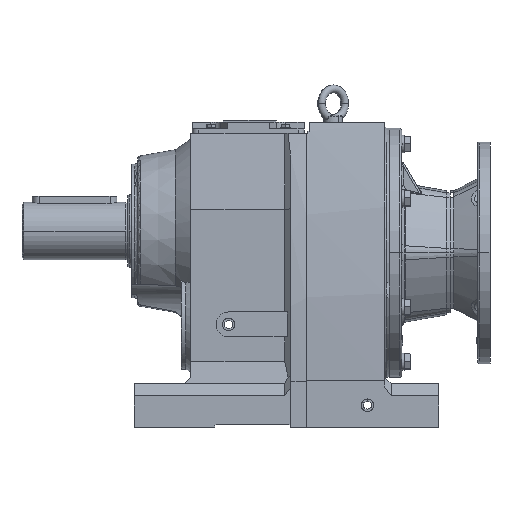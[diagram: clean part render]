
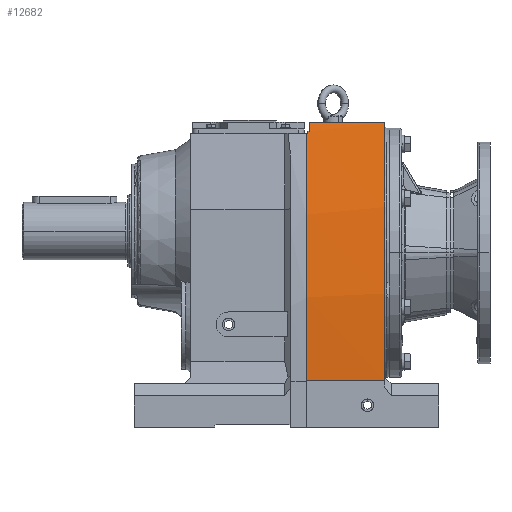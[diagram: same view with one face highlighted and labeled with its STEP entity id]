
A CAD part, front view. The second image highlights one B-rep face of the part: STEP entity #12682.
In plain terms, the highlighted cylindrical face has radius 1250 mm (diameter 2500 mm), a partial arc.
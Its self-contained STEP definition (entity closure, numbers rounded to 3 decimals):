
#503 = VERTEX_POINT ( 'NONE', #3458 ) ;
#505 = VERTEX_POINT ( 'NONE', #3456 ) ;
#592 = VERTEX_POINT ( 'NONE', #3369 ) ;
#593 = VERTEX_POINT ( 'NONE', #3368 ) ;
#3368 = CARTESIAN_POINT ( 'NONE',  ( 288., -225., -240.2 ) ) ;
#3369 = CARTESIAN_POINT ( 'NONE',  ( 414., -225., -240.2 ) ) ;
#3456 = CARTESIAN_POINT ( 'NONE',  ( 290., -181.958, 157. ) ) ;
#3458 = CARTESIAN_POINT ( 'NONE',  ( 288., -181.958, 157. ) ) ;
#6285 = LINE ( 'NONE', #27953, #25272 ) ;
#6546 = CYLINDRICAL_SURFACE ( 'NONE', #34992, 1250. ) ;
#6547 = FACE_OUTER_BOUND ( 'NONE', #32163, .T. ) ;
#7486 = VECTOR ( 'NONE', #29072, 1000. ) ;
#7488 = AXIS2_PLACEMENT_3D ( 'NONE', #29070, #29069, #29065 ) ;
#7491 = AXIS2_PLACEMENT_3D ( 'NONE', #23686, #23684, #23682 ) ;
#7495 = AXIS2_PLACEMENT_3D ( 'NONE', #23692, #23690, #23688 ) ;
#7496 = VECTOR ( 'NONE', #23694, 1000. ) ;
#7499 = CIRCLE ( 'NONE', #7495, 1250. ) ;
#7552 = AXIS2_PLACEMENT_3D ( 'NONE', #29109, #29106, #29104 ) ;
#7560 = CIRCLE ( 'NONE', #7491, 1250. ) ;
#7619 = CIRCLE ( 'NONE', #7488, 1250. ) ;
#7667 = CIRCLE ( 'NONE', #7552, 1250. ) ;
#7891 = VECTOR ( 'NONE', #29441, 1000. ) ;
#11733 = EDGE_CURVE ( 'NONE', #593, #592, #30927, .T. ) ;
#11785 = EDGE_CURVE ( 'NONE', #592, #31962, #7667, .T. ) ;
#11790 = EDGE_CURVE ( 'NONE', #31969, #31962, #18187, .T. ) ;
#11791 = EDGE_CURVE ( 'NONE', #31971, #31969, #7619, .T. ) ;
#12029 = EDGE_CURVE ( 'NONE', #31971, #31973, #18391, .T. ) ;
#12030 = EDGE_CURVE ( 'NONE', #505, #31973, #7499, .T. ) ;
#12031 = EDGE_CURVE ( 'NONE', #593, #503, #7560, .T. ) ;
#12682 = ADVANCED_FACE ( 'NONE', ( #6547 ), #6546, .T. ) ;
#12885 = EDGE_CURVE ( 'NONE', #503, #505, #6285, .T. ) ;
#14838 = CARTESIAN_POINT ( 'NONE',  ( 290., -181.129, 160. ) ) ;
#14841 = CARTESIAN_POINT ( 'NONE',  ( 293., -181.129, 160. ) ) ;
#14843 = CARTESIAN_POINT ( 'NONE',  ( 293., -176.92, 174.8 ) ) ;
#14848 = CARTESIAN_POINT ( 'NONE',  ( 414., -176.92, 174.8 ) ) ;
#18187 = LINE ( 'NONE', #29076, #7486 ) ;
#18391 = LINE ( 'NONE', #23696, #7496 ) ;
#21888 = ORIENTED_EDGE ( 'NONE', *, *, #12029, .T. ) ;
#21889 = ORIENTED_EDGE ( 'NONE', *, *, #11791, .F. ) ;
#21890 = ORIENTED_EDGE ( 'NONE', *, *, #11785, .T. ) ;
#21891 = ORIENTED_EDGE ( 'NONE', *, *, #11733, .T. ) ;
#21892 = ORIENTED_EDGE ( 'NONE', *, *, #11790, .F. ) ;
#21893 = ORIENTED_EDGE ( 'NONE', *, *, #12031, .F. ) ;
#21894 = ORIENTED_EDGE ( 'NONE', *, *, #12885, .F. ) ;
#21895 = ORIENTED_EDGE ( 'NONE', *, *, #12030, .F. ) ;
#23682 = DIRECTION ( 'NONE',  ( 0., 0., 1. ) ) ;
#23684 = DIRECTION ( 'NONE',  ( -1., 0., 0. ) ) ;
#23686 = CARTESIAN_POINT ( 'NONE',  ( 288., 1023.274, -174.534 ) ) ;
#23688 = DIRECTION ( 'NONE',  ( 0., 1., 0. ) ) ;
#23690 = DIRECTION ( 'NONE',  ( -1., 0., 0. ) ) ;
#23692 = CARTESIAN_POINT ( 'NONE',  ( 290., 1023.274, -174.534 ) ) ;
#23694 = DIRECTION ( 'NONE',  ( -1., 0., 0. ) ) ;
#23696 = CARTESIAN_POINT ( 'NONE',  ( 293., -181.129, 160. ) ) ;
#25272 = VECTOR ( 'NONE', #27952, 1000. ) ;
#27952 = DIRECTION ( 'NONE',  ( 1., 0., 0. ) ) ;
#27953 = CARTESIAN_POINT ( 'NONE',  ( 414., -181.958, 157. ) ) ;
#29065 = DIRECTION ( 'NONE',  ( 0., 0., 1. ) ) ;
#29069 = DIRECTION ( 'NONE',  ( -1., 0., 0. ) ) ;
#29070 = CARTESIAN_POINT ( 'NONE',  ( 293., 1023.274, -174.534 ) ) ;
#29072 = DIRECTION ( 'NONE',  ( 1., 0., 0. ) ) ;
#29076 = CARTESIAN_POINT ( 'NONE',  ( 414., -176.92, 174.8 ) ) ;
#29104 = DIRECTION ( 'NONE',  ( 0., 0., 1. ) ) ;
#29106 = DIRECTION ( 'NONE',  ( -1., 0., 0. ) ) ;
#29109 = CARTESIAN_POINT ( 'NONE',  ( 414., 1023.274, -174.534 ) ) ;
#29260 = DIRECTION ( 'NONE',  ( 0., 0., 1. ) ) ;
#29266 = DIRECTION ( 'NONE',  ( -1., 0., 0. ) ) ;
#29272 = CARTESIAN_POINT ( 'NONE',  ( 414., 1023.274, -174.534 ) ) ;
#29441 = DIRECTION ( 'NONE',  ( 1., 0., 0. ) ) ;
#29442 = CARTESIAN_POINT ( 'NONE',  ( 414., -225., -240.2 ) ) ;
#30927 = LINE ( 'NONE', #29442, #7891 ) ;
#31962 = VERTEX_POINT ( 'NONE', #14848 ) ;
#31969 = VERTEX_POINT ( 'NONE', #14843 ) ;
#31971 = VERTEX_POINT ( 'NONE', #14841 ) ;
#31973 = VERTEX_POINT ( 'NONE', #14838 ) ;
#32163 = EDGE_LOOP ( 'NONE', ( #21895, #21894, #21893, #21891, #21890, #21892, #21889, #21888 ) ) ;
#34992 = AXIS2_PLACEMENT_3D ( 'NONE', #29272, #29266, #29260 ) ;
